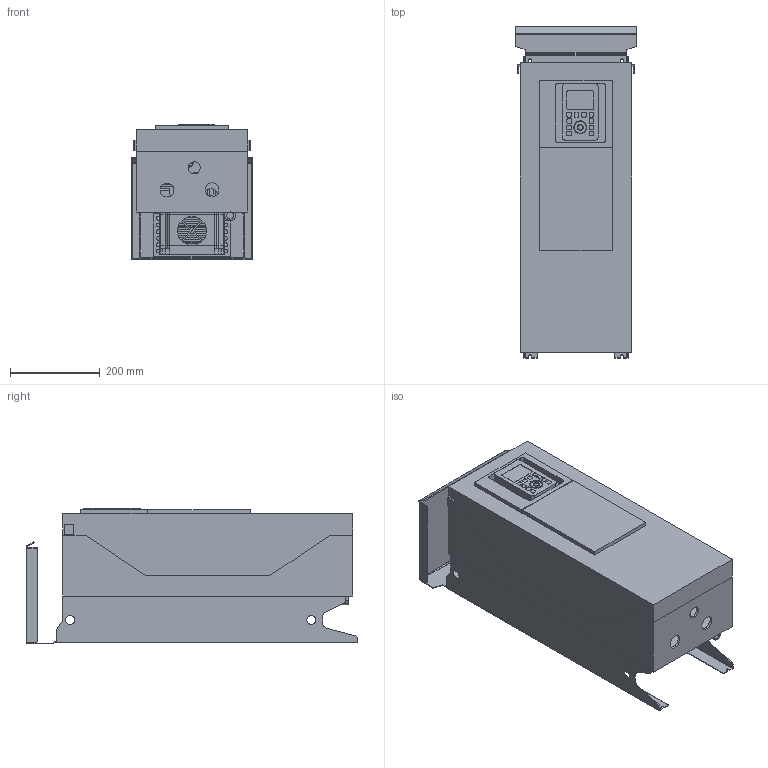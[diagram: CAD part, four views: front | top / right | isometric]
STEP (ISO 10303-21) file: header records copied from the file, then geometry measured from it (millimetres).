
FILE_DESCRIPTION((''),'2;1');
FILE_NAME('VFAS3_SA2E_ASM','2017-06-16T',('SESA57284'),('Schneider-Electric'),'PRO/ENGINEER BY PARAMETRIC TECHNOLOGY CORPORATION, 2015440','PRO/ENGINEER BY PARAMETRIC TECHNOLOGY CORPORATION, 2015440','');
FILE_SCHEMA(('CONFIG_CONTROL_DESIGN'));
Length unit declared in the file: millimetre
Products named in the file (13): PRT0001_1; PRT0002_1; PRT0003_1; PRT0004_1; PRT0005_1; PRT0006_1; PRT0007_1; PRT0008_1; ASM0003_ASM_1_ASM; PRT0009_1; VFAS3_SA2E_ASM_1_ASM; IP55_TOP_CAP_SA1E; VFAS3_SA2E_ASM
Assembly tree (12 placements, depth 4):
  VFAS3_SA2E_ASM
    VFAS3_SA2E_ASM_1_ASM
      PRT0001_1
      PRT0002_1
      PRT0003_1
      ASM0003_ASM_1_ASM
        PRT0004_1
        PRT0005_1
        PRT0006_1
        PRT0007_1
        PRT0008_1
      PRT0009_1
    IP55_TOP_CAP_SA1E
Bounding box: 271 x 741 x 302.93 mm (x, y, z)
Volume: 7617516 mm3; surface area: 2551689.2 mm2
Topology: 10 solids, 10 shells, 1669 faces, 4958 edges, 3334 vertices
Faces by surface type: plane 1133, cylinder 459, extrusion 75, torus 2
Entity records: 60884 total; most frequent: CARTESIAN_POINT 15141, ORIENTED_EDGE 9916, DIRECTION 8854, EDGE_CURVE 4958, VECTOR 3540, LINE 3465, VERTEX_POINT 3334, AXIS2_PLACEMENT_3D 2657
